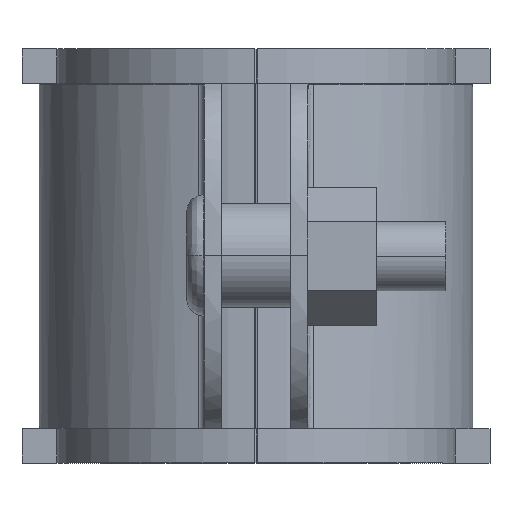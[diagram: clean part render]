
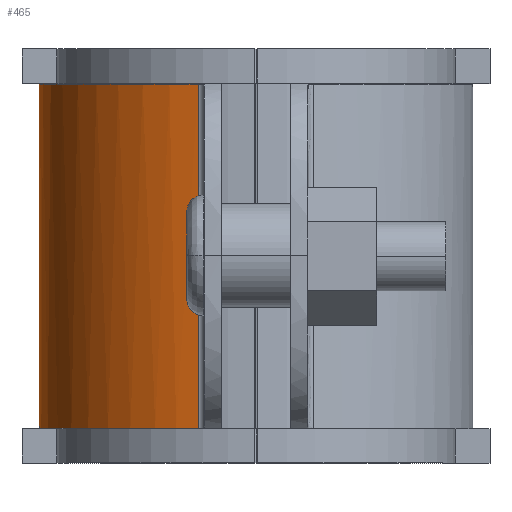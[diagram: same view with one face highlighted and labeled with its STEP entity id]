
A CAD part, top view. The second image highlights one B-rep face of the part: STEP entity #465.
In plain terms, the highlighted free-form (B-spline) face has degree [3, 1] with [4, 2] control points.
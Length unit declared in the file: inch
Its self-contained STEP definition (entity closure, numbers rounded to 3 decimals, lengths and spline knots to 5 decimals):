
#465=ADVANCED_FACE('',(#1182),#1183,.T.);
#475=EDGE_CURVE('',#1199,#1200,#1201,.T.);
#645=EDGE_CURVE('',#1200,#1447,#1448,.T.);
#649=EDGE_CURVE('',#1199,#1220,#1453,.T.);
#945=EDGE_CURVE('',#1447,#1220,#1842,.T.);
#1182=FACE_OUTER_BOUND('',#2299,.T.);
#1183=B_SPLINE_SURFACE_WITH_KNOTS('',3,1,((#2300,#2301),(#2302,#2303),(#2304,#2305),(#2306,#2307)),.UNSPECIFIED.,.F.,.F.,.F.,(4,4),(2,2),(-1.0,-0.0),(0.0,1.25),.UNSPECIFIED.);
#1199=VERTEX_POINT('',#2330);
#1200=VERTEX_POINT('',#2331);
#1201=B_SPLINE_CURVE_WITH_KNOTS('',3,(#2332,#2333,#2334,#2335),.UNSPECIFIED.,.F.,.F.,(4,4),(-1.0,-0.0),.UNSPECIFIED.);
#1220=VERTEX_POINT('',#2362);
#1447=VERTEX_POINT('',#2770);
#1448=LINE('',#2771,#2772);
#1453=LINE('',#2778,#2779);
#1842=B_SPLINE_CURVE_WITH_KNOTS('',3,(#3627,#3628,#3629,#3630),.UNSPECIFIED.,.F.,.F.,(4,4),(0.0,1.0),.UNSPECIFIED.);
#2299=EDGE_LOOP('',(#4001,#4002,#4003,#4004));
#2300=CARTESIAN_POINT('',(0.57567,1.25,2.2085));
#2301=CARTESIAN_POINT('',(0.57567,0.0,2.2085));
#2302=CARTESIAN_POINT('',(0.24377,1.25,2.11694));
#2303=CARTESIAN_POINT('',(0.24377,0.0,2.11694));
#2304=CARTESIAN_POINT('',(0.00005,1.25,1.81339));
#2305=CARTESIAN_POINT('',(0.00005,0.0,1.81339));
#2306=CARTESIAN_POINT('',(0.00005,1.25,1.45231));
#2307=CARTESIAN_POINT('',(0.00005,0.0,1.45231));
#2330=CARTESIAN_POINT('',(0.57567,1.24627,2.2085));
#2331=CARTESIAN_POINT('',(0.00005,1.24627,1.45231));
#2332=CARTESIAN_POINT('',(0.57567,1.24627,2.2085));
#2333=CARTESIAN_POINT('',(0.24377,1.24627,2.11694));
#2334=CARTESIAN_POINT('',(0.00005,1.24627,1.81339));
#2335=CARTESIAN_POINT('',(0.00005,1.24627,1.45231));
#2362=CARTESIAN_POINT('',(0.57567,0.0,2.2085));
#2770=CARTESIAN_POINT('',(0.00005,0.0,1.45231));
#2771=CARTESIAN_POINT('',(0.00005,1.25,1.45231));
#2772=VECTOR('',#4342,1.0);
#2778=CARTESIAN_POINT('',(0.57567,1.25,2.2085));
#2779=VECTOR('',#4351,1.0);
#3627=CARTESIAN_POINT('',(0.00005,0.0,1.45231));
#3628=CARTESIAN_POINT('',(0.00005,0.0,1.81339));
#3629=CARTESIAN_POINT('',(0.24377,0.0,2.11694));
#3630=CARTESIAN_POINT('',(0.57567,0.0,2.2085));
#4001=ORIENTED_EDGE('',*,*,#475,.T.);
#4002=ORIENTED_EDGE('',*,*,#645,.T.);
#4003=ORIENTED_EDGE('',*,*,#945,.T.);
#4004=ORIENTED_EDGE('',*,*,#649,.F.);
#4342=DIRECTION('',(0.0,-1.0,0.0));
#4351=DIRECTION('',(0.0,-1.0,0.0));
